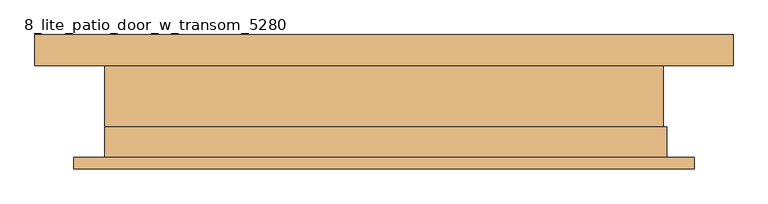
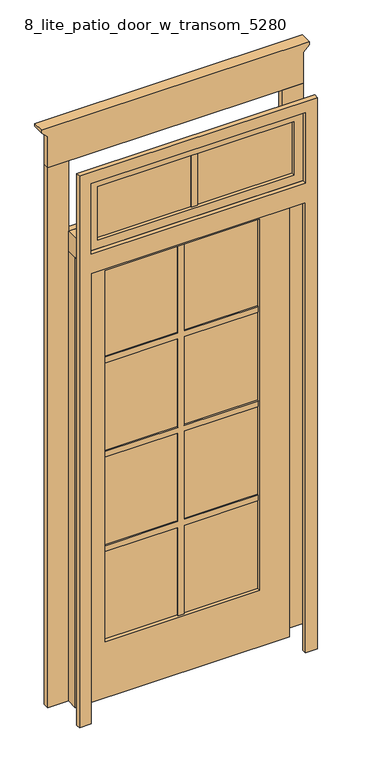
"""IFC4 building model written with IfcOpenShell, lengths in millimetres: door geometry."""

from ifc_helpers import new_model, si_unit, frame, origin, origin_with_axes, place, context, project, spatial, polyline, outline, extrude, faceted_brep, source, transform, mapped, element, save


def door_8_lite_patio_door_w_transom_5280_db97a988(model_context):
    return source(origin(), model_context, "Body", "SolidModel", [
        extrude(outline(polyline([(381.0, -75.0), (-533.4, -75.0), (-533.4, 75.0), (381.0, 75.0), (381.0, -75.0)])), frame((0.0, 0.0, 2032.0), z_axis=(0.0, 0.0, 1.0), x_axis=(1.0, 0.0, 0.0)), (0.0, 0.0, 1.0), 88.9),
        extrude(outline(polyline([(254.0, -63.5), (654.05, -63.5), (654.05, 254.0), (679.45, 254.0), (679.45, -63.5), (1079.5, -63.5), (1079.5, 254.0), (1104.9, 254.0), (1104.9, -63.5), (1504.95, -63.5), (1504.95, 254.0), (1530.35, 254.0), (1530.35, -63.5), (1930.4, -63.5), (1930.4, -88.9), (1530.35, -88.9), (1530.35, -406.4), (1504.95, -406.4), (1504.95, -88.9), (1104.9, -88.9), (1104.9, -406.4), (1079.5, -406.4), (1079.5, -88.9), (679.45, -88.9), (679.45, -406.4), (654.05, -406.4), (654.05, -88.9), (254.0, -88.9), (254.0, -63.5)])), frame((0.0, 33.725, 0.0), z_axis=(0.0, 1.0, 0.0), x_axis=(0.0, 0.0, 1.0)), (0.0, 0.0, 1.0), 31.75),
        extrude(outline(polyline([(-457.2, 40.075), (-457.2, 59.125), (279.4, 59.125), (279.4, 40.075), (-457.2, 40.075)])), frame((0.0, 0.0, 254.0), z_axis=(0.0, 0.0, 1.0), x_axis=(1.0, 0.0, 0.0)), (0.0, 0.0, 1.0), 1676.4),
        extrude(outline(polyline([(2032.0, 381.0), (2032.0, -533.4), (0.0, -533.4), (0.0, 381.0), (2032.0, 381.0)]), holes=[polyline([(1930.4, 254.0), (254.0, 254.0), (254.0, -406.4), (1930.4, -406.4), (1930.4, 254.0)])]), frame((0.0, 24.2, 0.0), z_axis=(0.0, 1.0, 0.0), x_axis=(0.0, 0.0, 1.0)), (0.0, 0.0, 1.0), 50.8),
        faceted_brep([(-622.3, 75.0, 2438.4), (469.9, 75.0, 2438.4), (469.9, 75.0, 2578.1), (495.3, 75.0, 2603.5), (495.3, 75.0, 2616.2), (-647.7, 75.0, 2616.2), (-647.7, 75.0, 2603.5), (-622.3, 75.0, 2578.1), (-622.3, 100.4, 2438.4), (469.9, 100.4, 2438.4), (-622.3, 100.4, 2578.1), (-647.7, 125.8, 2603.5), (-647.7, 125.8, 2616.2), (495.3, 125.8, 2616.2), (469.9, 100.4, 2578.1), (495.3, 125.8, 2603.5)], [[[0, 1, 2, 3, 4, 5, 6, 7]], [[0, 8, 9, 1]], [[7, 10, 8, 0]], [[6, 11, 10, 7]], [[5, 12, 11, 6]], [[4, 13, 12, 5]], [[10, 14, 9, 8]], [[11, 15, 14, 10]], [[12, 13, 15, 11]], [[14, 2, 1, 9]], [[15, 3, 2, 14]], [[13, 4, 3, 15]]]),
        extrude(outline(polyline([(342.9, -41.275), (342.9, -60.325), (-500.6334237, -60.325), (-500.6334237, -41.275), (342.9, -41.275)])), frame((0.0, 0.0, 2159.0), z_axis=(0.0, 0.0, 1.0), x_axis=(1.0, 0.0, 0.0)), (0.0, 0.0, 1.0), 241.3),
        extrude(outline(polyline([(2438.4, 386.3334237), (2438.4, -533.4), (2120.9, -533.4), (2120.9, 386.3334237), (2438.4, 386.3334237)]), holes=[polyline([(2400.3, 342.9), (2159.0, 342.9), (2159.0, -495.3), (2400.3, -495.3), (2400.3, 342.9)])]), frame((0.0, -76.2, 0.0), z_axis=(0.0, 1.0, 0.0), x_axis=(0.0, 0.0, 1.0)), (0.0, 0.0, 1.0), 50.8),
        extrude(outline(polyline([(-88.9, -66.675), (-88.9, -34.925), (-63.5, -34.925), (-63.5, -66.675), (-88.9, -66.675)])), frame((0.0, 0.0, 2159.0), z_axis=(0.0, 0.0, 1.0), x_axis=(1.0, 0.0, 0.0)), (0.0, 0.0, 1.0), 241.3),
        extrude(outline(polyline([(381.0, 75.0), (-533.4, 75.0), (-533.4, 100.4), (381.0, 100.4), (381.0, 75.0)])), frame((0.0, 0.0, 2032.0), z_axis=(0.0, 0.0, 1.0), x_axis=(1.0, 0.0, 0.0)), (0.0, 0.0, 1.0), 88.9),
        extrude(outline(polyline([(381.0, 75.0), (381.0, 100.4), (469.9, 100.4), (469.9, 75.0), (381.0, 75.0)])), origin_with_axes(), (0.0, 0.0, 1.0), 2438.4),
        extrude(outline(polyline([(-622.3, 75.0), (-622.3, 100.4), (-533.4, 100.4), (-533.4, 75.0), (-622.3, 75.0)])), origin_with_axes(), (0.0, 0.0, 1.0), 2438.4),
        extrude(outline(polyline([(0.0, -533.4), (2032.0, -533.4), (2032.0, 381.0), (0.0, 381.0), (0.0, 431.8), (2489.2, 431.8), (2489.2, -584.2), (0.0, -584.2), (0.0, -533.4)]), holes=[polyline([(2438.4, -533.4), (2438.4, 381.0), (2120.9, 381.0), (2120.9, -533.4), (2438.4, -533.4)])]), frame((0.0, -94.05, 0.0), z_axis=(0.0, 1.0, 0.0), x_axis=(0.0, 0.0, 1.0)), (0.0, 0.0, 1.0), 19.05),
    ])


if __name__ == "__main__":
    model = new_model("IFC4")
    model_context = context("Model", 3, world=origin())
    ifc_project = project(units=[si_unit("LENGTHUNIT", "METRE", prefix="MILLI")], contexts=[model_context])
    site = spatial("IfcSite", under=ifc_project)
    building = spatial("IfcBuilding", under=site)
    placement = place(None, origin())
    door_8_lite_patio_door_w_transom_5280_shape = door_8_lite_patio_door_w_transom_5280_db97a988(model_context)
    element("IfcDoor", 1, ObjectType="8_lite_patio_door_w_transom_5280 : 36\" x 80\" w/transom\"", at=placement, inside=building, context=model_context, shape_type="MappedRepresentation", body=[
        mapped(door_8_lite_patio_door_w_transom_5280_shape, transform((0.0, 0.0, 0.0), x_axis=(1.0, 0.0, 0.0), y_axis=(0.0, 1.0, 0.0), z_axis=(0.0, 0.0, 1.0))),
    ])
    save(model, "model.ifc")
